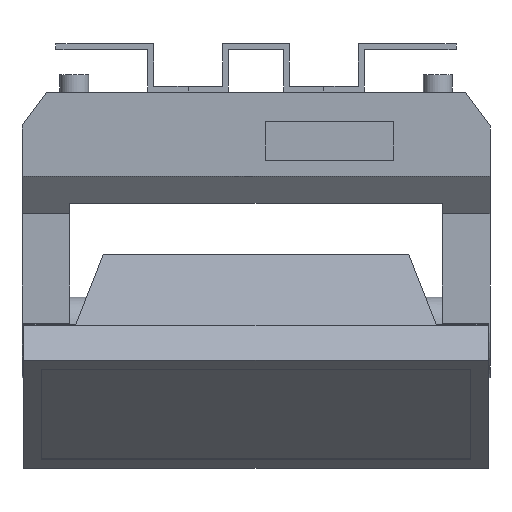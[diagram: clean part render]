
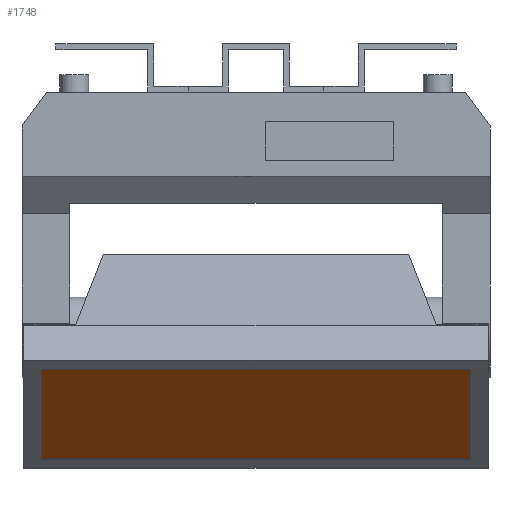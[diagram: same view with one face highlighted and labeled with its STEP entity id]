
A CAD part, front view. The second image highlights one B-rep face of the part: STEP entity #1748.
In plain terms, the highlighted planar face has unit normal (0, -0.5, -0.866) as drawn and (0, 1, 0) by its records, which use the part's own axes.
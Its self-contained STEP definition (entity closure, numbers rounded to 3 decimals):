
#145=FACE_OUTER_BOUND('',#249,.T.);
#249=EDGE_LOOP('',(#1303,#1304,#1305,#1306));
#386=LINE('',#2716,#595);
#387=LINE('',#2718,#596);
#388=LINE('',#2720,#597);
#389=LINE('',#2721,#598);
#595=VECTOR('',#2228,10.);
#596=VECTOR('',#2229,10.);
#597=VECTOR('',#2230,10.);
#598=VECTOR('',#2231,10.);
#794=VERTEX_POINT('',#2714);
#795=VERTEX_POINT('',#2715);
#796=VERTEX_POINT('',#2717);
#797=VERTEX_POINT('',#2719);
#982=EDGE_CURVE('',#794,#795,#386,.T.);
#983=EDGE_CURVE('',#796,#794,#387,.T.);
#984=EDGE_CURVE('',#797,#796,#388,.T.);
#985=EDGE_CURVE('',#795,#797,#389,.T.);
#1303=ORIENTED_EDGE('',*,*,#982,.F.);
#1304=ORIENTED_EDGE('',*,*,#983,.F.);
#1305=ORIENTED_EDGE('',*,*,#984,.F.);
#1306=ORIENTED_EDGE('',*,*,#985,.F.);
#1660=PLANE('',#1970);
#1748=ADVANCED_FACE('',(#145),#1660,.T.);
#1970=AXIS2_PLACEMENT_3D('',#2713,#2226,#2227);
#2226=DIRECTION('center_axis',(0.,1.,0.));
#2227=DIRECTION('ref_axis',(-1.,0.,0.));
#2228=DIRECTION('',(-1.,0.,0.));
#2229=DIRECTION('',(0.,0.,1.));
#2230=DIRECTION('',(1.,0.,0.));
#2231=DIRECTION('',(0.,0.,-1.));
#2713=CARTESIAN_POINT('Origin',(0.,85.7,-205.5));
#2714=CARTESIAN_POINT('',(186.606,85.7,-126.894));
#2715=CARTESIAN_POINT('',(-186.606,85.7,-126.894));
#2716=CARTESIAN_POINT('',(181.113,85.7,-126.894));
#2717=CARTESIAN_POINT('',(186.606,85.7,-284.106));
#2718=CARTESIAN_POINT('',(186.606,85.7,-278.613));
#2719=CARTESIAN_POINT('',(-186.606,85.7,-284.106));
#2720=CARTESIAN_POINT('',(-181.113,85.7,-284.106));
#2721=CARTESIAN_POINT('',(-186.606,85.7,-132.387));
